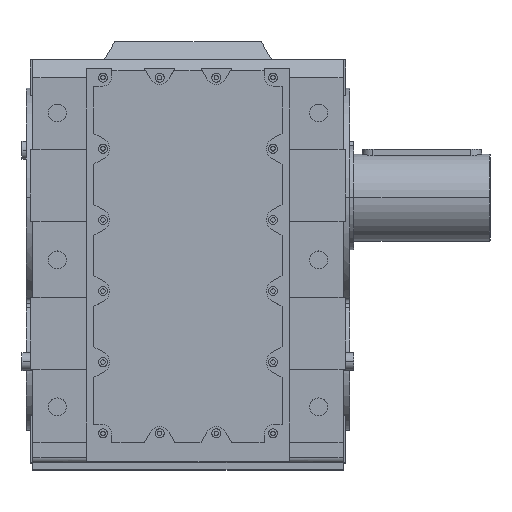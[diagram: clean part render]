
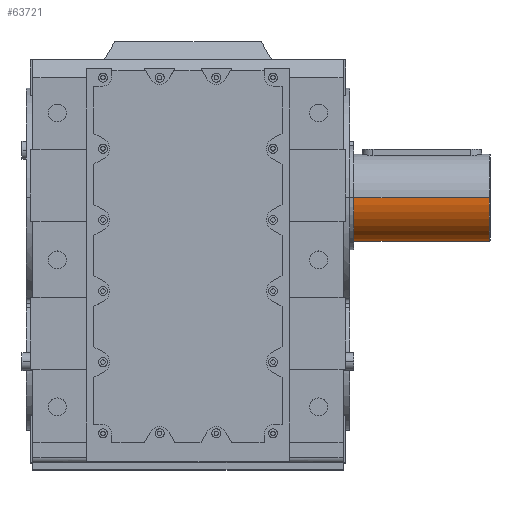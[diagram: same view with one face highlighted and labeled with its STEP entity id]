
A CAD part, top view. The second image highlights one B-rep face of the part: STEP entity #63721.
In plain terms, the highlighted cylindrical face has radius 80 mm (diameter 160 mm), a partial arc.
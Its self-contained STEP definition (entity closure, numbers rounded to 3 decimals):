
#62854 = CYLINDRICAL_SURFACE('',#62855,80.);
#62855 = AXIS2_PLACEMENT_3D('',#62856,#62857,#62858);
#62856 = CARTESIAN_POINT('',(0.,0.,0.));
#62857 = DIRECTION('',(-1.,0.,0.));
#62858 = DIRECTION('',(0.,0.,1.));
#63456 = VERTEX_POINT('',#63457);
#63457 = CARTESIAN_POINT('',(553.5,0.,80.));
#63458 = VERTEX_POINT('',#63459);
#63459 = CARTESIAN_POINT('',(553.5,0.,-80.));
#63507 = EDGE_CURVE('',#63458,#63508,#63510,.T.);
#63508 = VERTEX_POINT('',#63509);
#63509 = CARTESIAN_POINT('',(305.,0.,-80.));
#63510 = SURFACE_CURVE('',#63511,(#63515,#63521),.PCURVE_S1.);
#63511 = LINE('',#63512,#63513);
#63512 = CARTESIAN_POINT('',(0.,0.,-80.));
#63513 = VECTOR('',#63514,1.);
#63514 = DIRECTION('',(-1.,0.,0.));
#63515 = PCURVE('',#62854,#63516);
#63516 = DEFINITIONAL_REPRESENTATION('',(#63517),#63520);
#63517 = B_SPLINE_CURVE_WITH_KNOTS('',1,(#63518,#63519),.UNSPECIFIED.,
  .F.,.F.,(2,2),(-553.5,-305.),.PIECEWISE_BEZIER_KNOTS.);
#63518 = CARTESIAN_POINT('',(3.142,-553.5));
#63519 = CARTESIAN_POINT('',(3.142,-305.));
#63520 = ( GEOMETRIC_REPRESENTATION_CONTEXT(2) 
PARAMETRIC_REPRESENTATION_CONTEXT() REPRESENTATION_CONTEXT('2D SPACE',''
  ) );
#63521 = PCURVE('',#63522,#63527);
#63522 = CYLINDRICAL_SURFACE('',#63523,80.);
#63523 = AXIS2_PLACEMENT_3D('',#63524,#63525,#63526);
#63524 = CARTESIAN_POINT('',(0.,0.,0.));
#63525 = DIRECTION('',(-1.,0.,0.));
#63526 = DIRECTION('',(0.,0.,1.));
#63527 = DEFINITIONAL_REPRESENTATION('',(#63528),#63531);
#63528 = B_SPLINE_CURVE_WITH_KNOTS('',1,(#63529,#63530),.UNSPECIFIED.,
  .F.,.F.,(2,2),(-553.5,-305.),.PIECEWISE_BEZIER_KNOTS.);
#63529 = CARTESIAN_POINT('',(3.142,-553.5));
#63530 = CARTESIAN_POINT('',(3.142,-305.));
#63531 = ( GEOMETRIC_REPRESENTATION_CONTEXT(2) 
PARAMETRIC_REPRESENTATION_CONTEXT() REPRESENTATION_CONTEXT('2D SPACE',''
  ) );
#63534 = VERTEX_POINT('',#63535);
#63535 = CARTESIAN_POINT('',(305.,0.,80.));
#63549 = PLANE('',#63550);
#63550 = AXIS2_PLACEMENT_3D('',#63551,#63552,#63553);
#63551 = CARTESIAN_POINT('',(305.,80.,0.));
#63552 = DIRECTION('',(-1.,0.,0.));
#63553 = DIRECTION('',(0.,0.,1.));
#63561 = EDGE_CURVE('',#63456,#63534,#63562,.T.);
#63562 = SURFACE_CURVE('',#63563,(#63567,#63573),.PCURVE_S1.);
#63563 = LINE('',#63564,#63565);
#63564 = CARTESIAN_POINT('',(0.,0.,80.));
#63565 = VECTOR('',#63566,1.);
#63566 = DIRECTION('',(-1.,0.,0.));
#63567 = PCURVE('',#62854,#63568);
#63568 = DEFINITIONAL_REPRESENTATION('',(#63569),#63572);
#63569 = B_SPLINE_CURVE_WITH_KNOTS('',1,(#63570,#63571),.UNSPECIFIED.,
  .F.,.F.,(2,2),(-553.5,-305.),.PIECEWISE_BEZIER_KNOTS.);
#63570 = CARTESIAN_POINT('',(0.,-553.5));
#63571 = CARTESIAN_POINT('',(0.,-305.));
#63572 = ( GEOMETRIC_REPRESENTATION_CONTEXT(2) 
PARAMETRIC_REPRESENTATION_CONTEXT() REPRESENTATION_CONTEXT('2D SPACE',''
  ) );
#63573 = PCURVE('',#63522,#63574);
#63574 = DEFINITIONAL_REPRESENTATION('',(#63575),#63578);
#63575 = B_SPLINE_CURVE_WITH_KNOTS('',1,(#63576,#63577),.UNSPECIFIED.,
  .F.,.F.,(2,2),(-553.5,-305.),.PIECEWISE_BEZIER_KNOTS.);
#63576 = CARTESIAN_POINT('',(6.283,-553.5));
#63577 = CARTESIAN_POINT('',(6.283,-305.));
#63578 = ( GEOMETRIC_REPRESENTATION_CONTEXT(2) 
PARAMETRIC_REPRESENTATION_CONTEXT() REPRESENTATION_CONTEXT('2D SPACE',''
  ) );
#63701 = EDGE_CURVE('',#63508,#63534,#63702,.T.);
#63702 = SURFACE_CURVE('',#63703,(#63708,#63715),.PCURVE_S1.);
#63703 = CIRCLE('',#63704,80.);
#63704 = AXIS2_PLACEMENT_3D('',#63705,#63706,#63707);
#63705 = CARTESIAN_POINT('',(305.,0.,0.));
#63706 = DIRECTION('',(-1.,0.,0.));
#63707 = DIRECTION('',(0.,0.,1.));
#63708 = PCURVE('',#63549,#63709);
#63709 = DEFINITIONAL_REPRESENTATION('',(#63710),#63714);
#63710 = CIRCLE('',#63711,80.);
#63711 = AXIS2_PLACEMENT_2D('',#63712,#63713);
#63712 = CARTESIAN_POINT('',(0.,-80.));
#63713 = DIRECTION('',(1.,0.));
#63714 = ( GEOMETRIC_REPRESENTATION_CONTEXT(2) 
PARAMETRIC_REPRESENTATION_CONTEXT() REPRESENTATION_CONTEXT('2D SPACE',''
  ) );
#63715 = PCURVE('',#63522,#63716);
#63716 = DEFINITIONAL_REPRESENTATION('',(#63717),#63720);
#63717 = B_SPLINE_CURVE_WITH_KNOTS('',1,(#63718,#63719),.UNSPECIFIED.,
  .F.,.F.,(2,2),(3.142,6.283),.PIECEWISE_BEZIER_KNOTS.);
#63718 = CARTESIAN_POINT('',(3.142,-305.));
#63719 = CARTESIAN_POINT('',(6.283,-305.));
#63720 = ( GEOMETRIC_REPRESENTATION_CONTEXT(2) 
PARAMETRIC_REPRESENTATION_CONTEXT() REPRESENTATION_CONTEXT('2D SPACE',''
  ) );
#63721 = ADVANCED_FACE('',(#63722),#63522,.T.);
#63722 = FACE_BOUND('',#63723,.T.);
#63723 = EDGE_LOOP('',(#63724,#63725,#63773,#63774));
#63724 = ORIENTED_EDGE('',*,*,#63507,.F.);
#63725 = ORIENTED_EDGE('',*,*,#63726,.T.);
#63726 = EDGE_CURVE('',#63458,#63456,#63727,.T.);
#63727 = SURFACE_CURVE('',#63728,(#63733,#63739),.PCURVE_S1.);
#63728 = CIRCLE('',#63729,80.);
#63729 = AXIS2_PLACEMENT_3D('',#63730,#63731,#63732);
#63730 = CARTESIAN_POINT('',(553.5,0.,0.));
#63731 = DIRECTION('',(-1.,0.,0.));
#63732 = DIRECTION('',(0.,0.,1.));
#63733 = PCURVE('',#63522,#63734);
#63734 = DEFINITIONAL_REPRESENTATION('',(#63735),#63738);
#63735 = B_SPLINE_CURVE_WITH_KNOTS('',1,(#63736,#63737),.UNSPECIFIED.,
  .F.,.F.,(2,2),(3.142,6.283),.PIECEWISE_BEZIER_KNOTS.);
#63736 = CARTESIAN_POINT('',(3.142,-553.5));
#63737 = CARTESIAN_POINT('',(6.283,-553.5));
#63738 = ( GEOMETRIC_REPRESENTATION_CONTEXT(2) 
PARAMETRIC_REPRESENTATION_CONTEXT() REPRESENTATION_CONTEXT('2D SPACE',''
  ) );
#63739 = PCURVE('',#63740,#63745);
#63740 = CONICAL_SURFACE('',#63741,78.5,0.785);
#63741 = AXIS2_PLACEMENT_3D('',#63742,#63743,#63744);
#63742 = CARTESIAN_POINT('',(555.,0.,0.));
#63743 = DIRECTION('',(-1.,0.,0.));
#63744 = DIRECTION('',(0.,0.,1.));
#63745 = DEFINITIONAL_REPRESENTATION('',(#63746),#63772);
#63746 = B_SPLINE_CURVE_WITH_KNOTS('',3,(#63747,#63748,#63749,#63750,
    #63751,#63752,#63753,#63754,#63755,#63756,#63757,#63758,#63759,
    #63760,#63761,#63762,#63763,#63764,#63765,#63766,#63767,#63768,
    #63769,#63770,#63771),.UNSPECIFIED.,.F.,.F.,(4,1,1,1,1,1,1,1,1,1,1,1
    ,1,1,1,1,1,1,1,1,1,1,4),(3.142,3.284,3.427
    ,3.57,3.713,3.856,3.998,
    4.141,4.284,4.427,4.57,
    4.712,4.855,4.998,5.141,
    5.284,5.426,5.569,5.712,
    5.855,5.998,6.14,6.283),
  .QUASI_UNIFORM_KNOTS.);
#63747 = CARTESIAN_POINT('',(3.142,1.5));
#63748 = CARTESIAN_POINT('',(3.189,1.5));
#63749 = CARTESIAN_POINT('',(3.284,1.5));
#63750 = CARTESIAN_POINT('',(3.427,1.5));
#63751 = CARTESIAN_POINT('',(3.57,1.5));
#63752 = CARTESIAN_POINT('',(3.713,1.5));
#63753 = CARTESIAN_POINT('',(3.856,1.5));
#63754 = CARTESIAN_POINT('',(3.998,1.5));
#63755 = CARTESIAN_POINT('',(4.141,1.5));
#63756 = CARTESIAN_POINT('',(4.284,1.5));
#63757 = CARTESIAN_POINT('',(4.427,1.5));
#63758 = CARTESIAN_POINT('',(4.57,1.5));
#63759 = CARTESIAN_POINT('',(4.712,1.5));
#63760 = CARTESIAN_POINT('',(4.855,1.5));
#63761 = CARTESIAN_POINT('',(4.998,1.5));
#63762 = CARTESIAN_POINT('',(5.141,1.5));
#63763 = CARTESIAN_POINT('',(5.284,1.5));
#63764 = CARTESIAN_POINT('',(5.426,1.5));
#63765 = CARTESIAN_POINT('',(5.569,1.5));
#63766 = CARTESIAN_POINT('',(5.712,1.5));
#63767 = CARTESIAN_POINT('',(5.855,1.5));
#63768 = CARTESIAN_POINT('',(5.998,1.5));
#63769 = CARTESIAN_POINT('',(6.14,1.5));
#63770 = CARTESIAN_POINT('',(6.236,1.5));
#63771 = CARTESIAN_POINT('',(6.283,1.5));
#63772 = ( GEOMETRIC_REPRESENTATION_CONTEXT(2) 
PARAMETRIC_REPRESENTATION_CONTEXT() REPRESENTATION_CONTEXT('2D SPACE',''
  ) );
#63773 = ORIENTED_EDGE('',*,*,#63561,.T.);
#63774 = ORIENTED_EDGE('',*,*,#63701,.F.);
